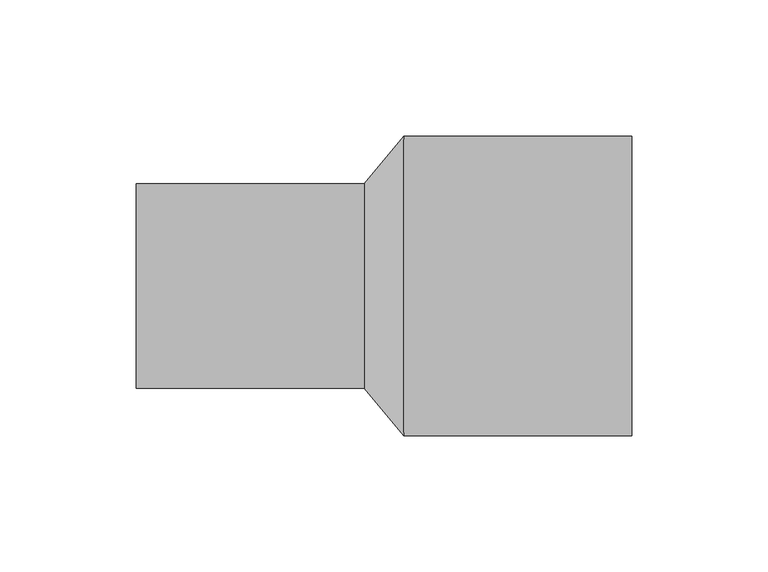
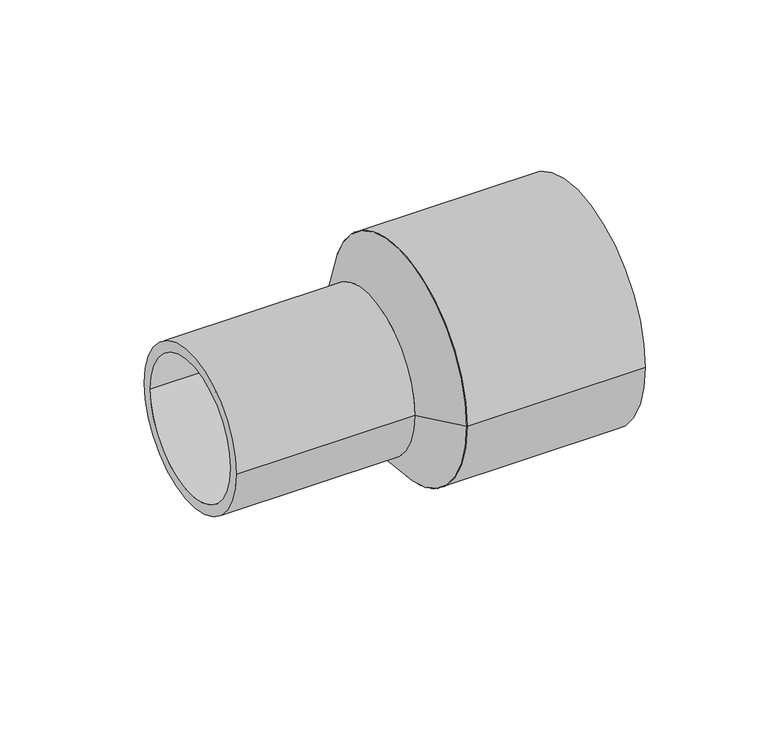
"""IFC4 building model written with IfcOpenShell, lengths in millimetres: pipe fitting geometry, EGB_VASEN_ PPR_Manguito reductor a tope WXRB110 : Manguito reductor a tope WXRB110."""

import ifcopenshell
import ifcopenshell.guid

model = None  # the IFC model being written
_history = None  # IfcOwnerHistory: only IFC2X3 demands one
_inside = {}  # id of a spatial element -> (the spatial element, [elements in it])
_under = {}  # id of a project, library or spatial element -> (it, [spatial elements below it])
_declared = {}  # id of a project -> (the project, [libraries it declares])
_typed = {}  # id of a type object -> (the type object, [elements of that type])
_made_of = {}  # id of a material, layer set ... -> (it, [elements and type objects made of it])


def new_model(schema):
    """Start an empty IFC model of exactly this schema.

    Asked for "IFC4X3", IfcOpenShell would pick the latest addendum, in which some entities
    have other attributes; the version numbers below select the first issue.
    IFC2X3 requires an IfcOwnerHistory on every rooted entity: one is made here for all.
    """
    global model, _history
    if schema == "IFC4X3":
        model = ifcopenshell.file(schema_version=(4, 3, 0, 0))
    else:
        model = ifcopenshell.file(schema=schema)
    _inside.clear()
    _under.clear()
    _declared.clear()
    _typed.clear()
    _made_of.clear()
    _history = None
    if model.schema == "IFC2X3":
        org = make("IfcOrganization", Name="unknown")
        user = make(
            "IfcPersonAndOrganization",
            ThePerson=make("IfcPerson", FamilyName="unknown"),
            TheOrganization=org,
        )
        app = make(
            "IfcApplication",
            ApplicationDeveloper=org,
            Version="unknown",
            ApplicationFullName="unknown",
            ApplicationIdentifier="unknown",
        )
        _history = make(
            "IfcOwnerHistory",
            OwningUser=user,
            OwningApplication=app,
            ChangeAction="ADDED",
            CreationDate=0,
        )
    return model


def make(cls, **values):
    """One entity of the class cls with the attributes given. An attribute that is None is left unset."""
    return model.create_entity(
        cls, **{name: value for name, value in values.items() if value is not None}
    )


def rooted(cls, **values):
    """An entity with a GlobalId (a new one), such as an element, a storey or a relation."""
    return make(cls, GlobalId=ifcopenshell.guid.new(), OwnerHistory=_history, **values)


def si_unit(unit_type, name, prefix=None):
    """IfcSIUnit, for example si_unit("LENGTHUNIT", "METRE", prefix="MILLI")."""
    return make("IfcSIUnit", UnitType=unit_type, Prefix=prefix, Name=name)


def assignment(units):
    """IfcUnitAssignment: the units of a project."""
    return None if units is None else make("IfcUnitAssignment", Units=units)


def point(xyz):
    """IfcCartesianPoint."""
    return None if xyz is None else make("IfcCartesianPoint", Coordinates=xyz)


def direction(xyz):
    """IfcDirection."""
    return None if xyz is None else make("IfcDirection", DirectionRatios=xyz)


def frame(location, z_axis=None, x_axis=None):
    """IfcAxis2Placement3D, a coordinate frame: its origin and axes. An axis left out is left unset."""
    return make(
        "IfcAxis2Placement3D",
        Location=point(location),
        Axis=direction(z_axis),
        RefDirection=direction(x_axis),
    )


def frame_2d(location, x_axis=None):
    """IfcAxis2Placement2D, a coordinate frame in the plane: its origin and x axis."""
    return make(
        "IfcAxis2Placement2D", Location=point(location), RefDirection=direction(x_axis)
    )


def origin():
    """The frame at (0, 0, 0) with its axes left unset."""
    return frame((0.0, 0.0, 0.0))


def origin_2d():
    """The frame at (0, 0) in the plane with its x axis left unset."""
    return frame_2d((0.0, 0.0))


def place(relative_to, where):
    """IfcLocalPlacement: puts the frame where relative to a parent placement (None: the world)."""
    return make(
        "IfcLocalPlacement", PlacementRelTo=relative_to, RelativePlacement=where
    )


def context(
    kind, dimensions, precision=None, world=None, true_north=None, identifier=None
):
    """IfcGeometricRepresentationContext, for example the 3D "Model" context."""
    return make(
        "IfcGeometricRepresentationContext",
        ContextIdentifier=identifier,
        ContextType=kind,
        CoordinateSpaceDimension=dimensions,
        Precision=precision,
        WorldCoordinateSystem=world,
        TrueNorth=true_north,
    )


def project(units=None, contexts=None):
    """IfcProject with its units and contexts."""
    return rooted(
        "IfcProject",
        Name="project",
        RepresentationContexts=contexts,
        UnitsInContext=assignment(units),
    )


def spatial(cls, under=None, at=None, **own):
    """A site, building, storey or space (cls), placed at a placement, below another one or the project."""
    s = rooted(cls, ObjectPlacement=at, **own)
    if under is not None:
        _under.setdefault(under.id(), (under, []))[1].append(s)
    return s


def polyline(points):
    """IfcPolyline through the points."""
    return make("IfcPolyline", Points=[point(p) for p in points])


def circle_curve(where, radius):
    """IfcCircle in the frame where."""
    return make("IfcCircle", Position=where, Radius=radius)


def trimmed(basis, trim1, trim2, sense, master):
    """IfcTrimmedCurve: the piece of a basis curve between two trims."""
    return make(
        "IfcTrimmedCurve",
        BasisCurve=basis,
        Trim1=trim1,
        Trim2=trim2,
        SenseAgreement=sense,
        MasterRepresentation=master,
    )


def segment(curve, same_sense, transition):
    """IfcCompositeCurveSegment."""
    return make(
        "IfcCompositeCurveSegment",
        Transition=transition,
        SameSense=same_sense,
        ParentCurve=curve,
    )


def composite_curve(segments, self_intersect=None):
    """IfcCompositeCurve: segments joined end to end."""
    return make("IfcCompositeCurve", Segments=segments, SelfIntersect=self_intersect)


def outline(outer, holes=None, kind="AREA"):
    """IfcArbitraryClosedProfileDef: a profile drawn as a closed curve; with holes, ...WithVoids."""
    if holes is None:
        return make("IfcArbitraryClosedProfileDef", ProfileType=kind, OuterCurve=outer)
    return make(
        "IfcArbitraryProfileDefWithVoids",
        ProfileType=kind,
        OuterCurve=outer,
        InnerCurves=holes,
    )


def extrude(swept, where, along, depth):
    """IfcExtrudedAreaSolid: the profile swept, set in the frame where, extruded along a direction by depth."""
    return make(
        "IfcExtrudedAreaSolid",
        SweptArea=swept,
        Position=where,
        ExtrudedDirection=direction(along),
        Depth=depth,
    )


def shape(context_of_items, identifier, shape_type, items):
    """IfcShapeRepresentation: the items that make up one representation, for example the "Body"."""
    return make(
        "IfcShapeRepresentation",
        ContextOfItems=context_of_items,
        RepresentationIdentifier=identifier,
        RepresentationType=shape_type,
        Items=items,
    )


def source(mapping_origin, context_of_items, identifier, shape_type, items):
    """IfcRepresentationMap: a shape defined once, which mapped items show again and again."""
    return make(
        "IfcRepresentationMap",
        MappingOrigin=mapping_origin,
        MappedRepresentation=shape(context_of_items, identifier, shape_type, items),
    )


def transform(
    local_origin,
    x_axis=None,
    y_axis=None,
    z_axis=None,
    scale=None,
    scale2=None,
    scale3=None,
    uniform=True,
):
    """IfcCartesianTransformationOperator3D, or its non-uniform kind. x_axis, y_axis, z_axis: its Axis1, 2, 3."""
    if uniform:
        return make(
            "IfcCartesianTransformationOperator3D",
            Axis1=direction(x_axis),
            Axis2=direction(y_axis),
            LocalOrigin=point(local_origin),
            Scale=scale,
            Axis3=direction(z_axis),
        )
    return make(
        "IfcCartesianTransformationOperator3DnonUniform",
        Axis1=direction(x_axis),
        Axis2=direction(y_axis),
        LocalOrigin=point(local_origin),
        Scale=scale,
        Axis3=direction(z_axis),
        Scale2=scale2,
        Scale3=scale3,
    )


def mapped(mapping_source, mapping_target):
    """IfcMappedItem: shows the shape of a source again, moved by a transform."""
    return make(
        "IfcMappedItem", MappingSource=mapping_source, MappingTarget=mapping_target
    )


def made_of(thing, what):
    """Note that an element or type object is made of a material, layer set ...; save() writes the relation."""
    if what is not None:
        _made_of.setdefault(what.id(), (what, []))[1].append(thing)
    return thing


def element(
    cls,
    number,
    at=None,
    inside=None,
    cuts=None,
    type_object=None,
    material=None,
    context=None,
    identifier="Body",
    shape_type=None,
    held_by="IfcProductDefinitionShape",
    body=None,
    shapes=None,
    **own,
):
    """One element of the class cls, such as IfcWall. Its Tag is "e" and its number.

    at: its placement. inside: the storey or other place that contains it. cuts: it is an
    opening in that element (IfcRelVoidsElement). A single representation is given by context,
    identifier, shape_type and body (its items); several are given by shapes. held_by: the class
    of the entity that holds the representations. save() writes the other relations.
    """
    e = rooted(cls, Tag="e%d" % number, ObjectPlacement=at, **own)
    if body is not None:
        shapes = [shape(context, identifier, shape_type, body)]
    if shapes is not None:
        e.Representation = make(held_by, Representations=shapes)
    if inside is not None:
        _inside.setdefault(inside.id(), (inside, []))[1].append(e)
    if cuts is not None:
        rooted(
            "IfcRelVoidsElement", RelatingBuildingElement=cuts, RelatedOpeningElement=e
        )
    if type_object is not None:
        _typed.setdefault(type_object.id(), (type_object, []))[1].append(e)
    return made_of(e, material)


def aggregate(whole, parts):
    """IfcRelAggregates: a whole, such as a stair, and the parts it consists of."""
    return rooted("IfcRelAggregates", RelatingObject=whole, RelatedObjects=parts)


def save(model, path):
    """Write the relations noted so far, then the file.

    IfcRelAggregates (storeys below a building ...), IfcRelContainedInSpatialStructure (elements
    in a storey), IfcRelDefinesByType, IfcRelAssociatesMaterial and IfcRelDeclares: one each for
    every whole, place, type object, material and project.
    """
    for whole, parts in _under.values():
        aggregate(whole, parts)
    for where, things in _inside.values():
        rooted(
            "IfcRelContainedInSpatialStructure",
            RelatedElements=things,
            RelatingStructure=where,
        )
    for kind, things in _typed.values():
        rooted("IfcRelDefinesByType", RelatedObjects=things, RelatingType=kind)
    for what, things in _made_of.values():
        rooted("IfcRelAssociatesMaterial", RelatedObjects=things, RelatingMaterial=what)
    for by, libraries in _declared.values():
        rooted("IfcRelDeclares", RelatingContext=by, RelatedDefinitions=libraries)
    model.write(path)


def plane_surface(at):
    """IfcPlane: the flat surface through the origin of the frame at, square to its z axis."""
    return make("IfcPlane", Position=at)


def revolved_surface(curve, axis_point, axis_direction):
    """IfcSurfaceOfRevolution: the curve turned about the line through axis_point along axis_direction."""
    return make(
        "IfcSurfaceOfRevolution",
        SweptCurve=make("IfcArbitraryOpenProfileDef", ProfileType="CURVE", Curve=curve),
        AxisPosition=make("IfcAxis1Placement", Location=point(axis_point), Axis=direction(axis_direction)),
    )


def advanced_brep(points, edges, surfaces, faces):
    """IfcAdvancedBrep: a solid bounded by faces that lie on surfaces and meet in shared edges.

    An edge is (start, end): straight between two places in points (the first is 0);
    or (start, end, curve); or (start, end, curve, False) where it runs against its curve.
    A face is (place in surfaces, loops), or (place, loops, False) where it looks against
    its surface's normal. A loop lists edges by number (the first is 1), with a minus sign
    where the edge is run from its end to its start. The first loop is the outer one.
    """
    corners = [point(p) for p in points]
    vertices = [make("IfcVertexPoint", VertexGeometry=c) for c in corners]
    made = []
    for start, end, *more in edges:
        made.append(
            make(
                "IfcEdgeCurve",
                EdgeStart=vertices[start],
                EdgeEnd=vertices[end],
                EdgeGeometry=more[0] if more else make("IfcPolyline", Points=[corners[start], corners[end]]),
                SameSense=more[1] if len(more) > 1 else True,
            )
        )
    hull = []
    for where, loops, *sense in faces:
        bounds = []
        for j, loop in enumerate(loops):
            ring = [make("IfcOrientedEdge", EdgeElement=made[abs(k) - 1], Orientation=k > 0) for k in loop]
            bounds.append(
                make(
                    "IfcFaceOuterBound" if j == 0 else "IfcFaceBound",
                    Bound=make("IfcEdgeLoop", EdgeList=ring),
                    Orientation=True,
                )
            )
        hull.append(make("IfcAdvancedFace", Bounds=bounds, FaceSurface=surfaces[where], SameSense=sense[0] if sense else True))
    return make("IfcAdvancedBrep", Outer=make("IfcClosedShell", CfsFaces=hull))


def pipe_fitting_f9f46561(model_context):
    return source(origin(), model_context, "Body", "SolidModel", [
        extrude(outline(composite_curve([segment(trimmed(circle_curve(origin_2d(), 55.0), [point((-55.0, 0.0))], [point((55.0, 0.0))], False, "CARTESIAN"), True, "CONTINUOUS"), segment(trimmed(circle_curve(origin_2d(), 55.0), [point((55.0, 0.0))], [point((-55.0, 0.0))], False, "CARTESIAN"), True, "CONTINUOUS")], self_intersect=False), holes=[composite_curve([segment(trimmed(circle_curve(origin_2d(), 50.0), [point((-50.0, 0.0))], [point((50.0, 0.0))], True, "CARTESIAN"), True, "CONTINUOUS"), segment(trimmed(circle_curve(origin_2d(), 50.0), [point((50.0, 0.0))], [point((-50.0, 0.0))], True, "CARTESIAN"), True, "CONTINUOUS")], self_intersect=False)]), frame((7.28, 0.0, 0.0), z_axis=(1.0, 0.0, 0.0), x_axis=(0.0, 1.0, 0.0)), (0.0, 0.0, 1.0), 83.72),
        extrude(outline(composite_curve([segment(trimmed(circle_curve(origin_2d(), 37.5), [point((-37.5, 0.0))], [point((37.5, 0.0))], False, "CARTESIAN"), True, "CONTINUOUS"), segment(trimmed(circle_curve(origin_2d(), 37.5), [point((37.5, 0.0))], [point((-37.5, 0.0))], False, "CARTESIAN"), True, "CONTINUOUS")], self_intersect=False), holes=[composite_curve([segment(trimmed(circle_curve(origin_2d(), 32.5), [point((-32.5, 0.0))], [point((32.5, 0.0))], True, "CARTESIAN"), True, "CONTINUOUS"), segment(trimmed(circle_curve(origin_2d(), 32.5), [point((32.5, 0.0))], [point((-32.5, 0.0))], True, "CARTESIAN"), True, "CONTINUOUS")], self_intersect=False)]), frame((-91.0, 0.0, 0.0), z_axis=(1.0, 0.0, 0.0), x_axis=(0.0, 1.0, 0.0)), (0.0, 0.0, 1.0), 83.72),
        advanced_brep(
        [(7.28, -55.0, 0.0), (7.28, 55.0, 0.0), (-7.28, -37.5, 0.0), (-7.28, 37.5, 0.0)],
        [
            (0, 1, circle_curve(frame((7.28, 0.0, 0.0), z_axis=(1.0, 0.0, 0.0), x_axis=(0.0, -1.0, 0.0)), 55.0)),
            (1, 0, circle_curve(frame((7.28, 0.0, 0.0), z_axis=(1.0, 0.0, 0.0), x_axis=(0.0, 1.0, 0.0)), 55.0)),
            (2, 3, circle_curve(frame((-7.28, 0.0, 0.0), z_axis=(-1.0, 0.0, 0.0), x_axis=(0.0, 1.0, 0.0)), 37.5)),
            (3, 2, circle_curve(frame((-7.28, 0.0, 0.0), z_axis=(-1.0, 0.0, 0.0), x_axis=(0.0, -1.0, 0.0)), 37.5)),
            (3, 1),
            (0, 2),
        ],
        [
            plane_surface(frame((7.28, 0.0, 0.0), z_axis=(1.0, 0.0, 0.0), x_axis=(0.0, 0.0, -1.0))),
            plane_surface(frame((-7.28, 0.0, 0.0), z_axis=(-1.0, 0.0, 0.0), x_axis=(0.0, 0.0, -1.0))),
            revolved_surface(polyline([(-7.280000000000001, 37.5, 0.0), (7.280000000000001, 55.0, 0.0)]), (-38.48, 0.0, 0.0), (1.0, 0.0, 0.0)),
            revolved_surface(polyline([(-7.280000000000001, -37.5, 0.0), (7.280000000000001, -55.0, 0.0)]), (-38.48, 0.0, 0.0), (1.0, 0.0, 0.0)),
        ],
        [
            (0, [[1, 2]]),
            (1, [[3, 4]]),
            (2, [[-4, 5, -1, 6]]),
            (3, [[-3, -6, -2, -5]]),
        ],
    ),
    ])


if __name__ == "__main__":
    model = new_model("IFC4")
    model_context = context("Model", 3, world=origin())
    ifc_project = project(units=[si_unit("LENGTHUNIT", "METRE", prefix="MILLI")], contexts=[model_context])
    site = spatial("IfcSite", under=ifc_project)
    building = spatial("IfcBuilding", under=site)
    placement = place(None, origin())
    pipe_fitting_shape = pipe_fitting_f9f46561(model_context)
    element("IfcPipeFitting", 1, ObjectType="EGB_VASEN_ PPR_Manguito reductor a tope WXRB110 : Manguito reductor a tope WXRB110", at=placement, inside=building, context=model_context, shape_type="MappedRepresentation", body=[
        mapped(pipe_fitting_shape, transform((0.0, 0.0, 0.0), x_axis=(1.0, 0.0, 0.0), y_axis=(0.0, 1.0, 0.0), z_axis=(0.0, 0.0, 1.0))),
    ])
    save(model, "model.ifc")
